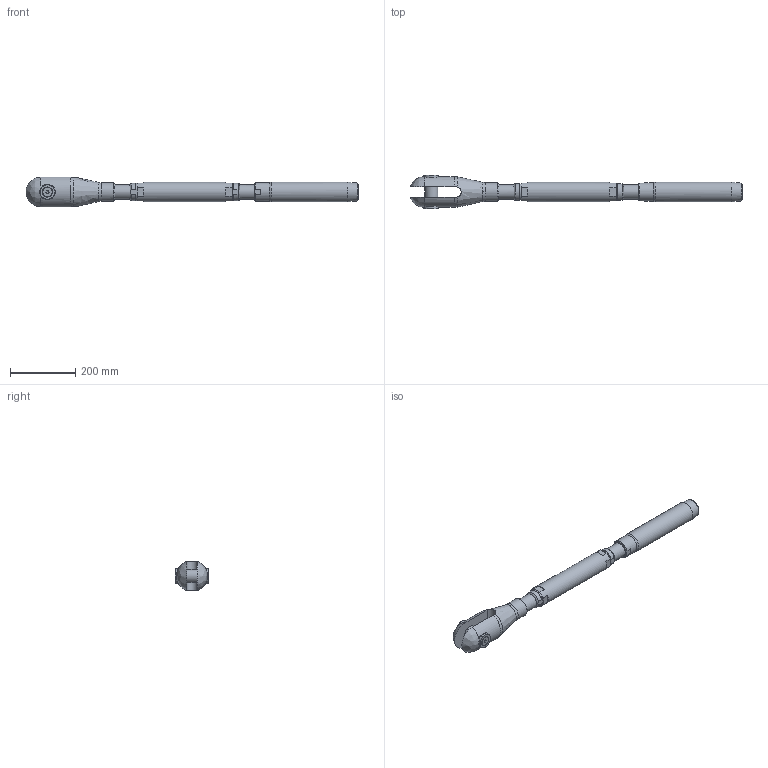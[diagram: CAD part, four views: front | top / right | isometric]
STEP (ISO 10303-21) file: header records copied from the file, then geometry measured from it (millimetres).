
FILE_DESCRIPTION(/* description */ (''),/* implementation_level */ '2;1');
FILE_NAME(/* name */ 'TBC 30_42CrMo4',/* time_stamp */ '2023-05-23T18:16:46+02:00',/* author */ (''),/* organization */ (''),/* preprocessor_version */ 'ST-DEVELOPER v16.5',/* originating_system */ 'Rhino 7.22',/* authorisation */ '');
FILE_SCHEMA (('CONFIG_CONTROL_DESIGN'));
Length unit declared in the file: millimetre
Products named in the file (1): Document
Bounding box: 1017.67 x 103.21 x 89.45 mm (x, y, z)
Volume: 2830371 mm3; surface area: 350943.1 mm2
Topology: 10 solids, 10 shells, 142 faces, 388 edges, 268 vertices
Faces by surface type: plane 65, bspline 42, cylinder 35
Full cylindrical faces by diameter (mm): 13.835 x2, 16 x2, 17 x2, 29.01 x2, 40 x1, 41.752 x4, 42 x2, 45 x2, 46 x2, 49 x1, 57.2 x2, 60 x1, 60.5 x1
Entity records: 6057 total; most frequent: CARTESIAN_POINT 3602, ORIENTED_EDGE 768, EDGE_CURVE 384, VERTEX_POINT 268, EDGE_LOOP 162, B_SPLINE_CURVE_WITH_KNOTS 159, ADVANCED_FACE 142, FACE_OUTER_BOUND 142
